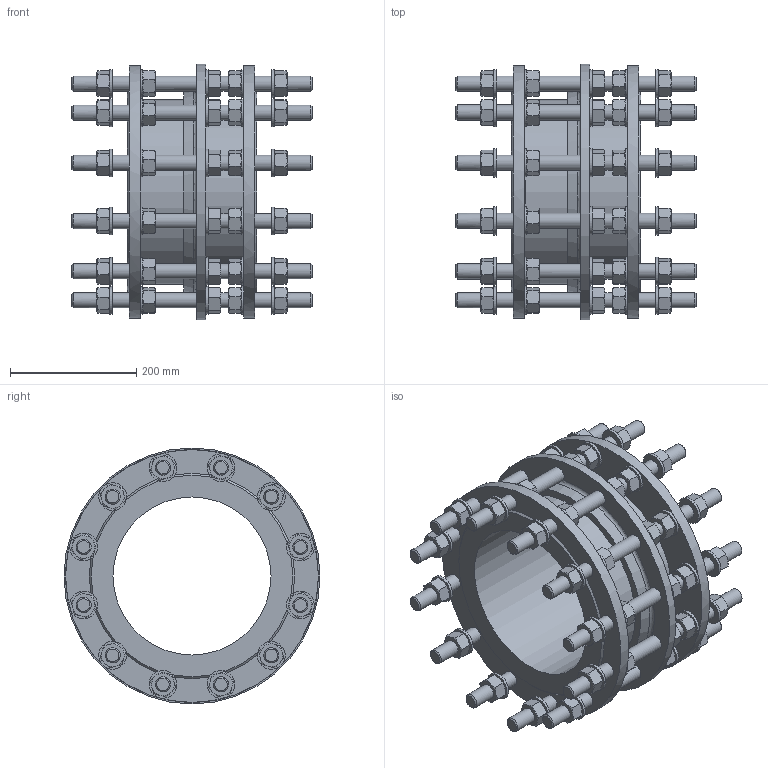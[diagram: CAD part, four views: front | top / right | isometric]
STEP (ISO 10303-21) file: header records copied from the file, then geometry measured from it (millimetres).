
FILE_DESCRIPTION (( 'STEP AP203' ), '1' );
FILE_NAME ('O_265_910_DN250_1XXXXX00_L=205_REV01.step', '2024-10-11T08:50:42', ( '' ), ( '' ), 'SwSTEP 2.0', 'SolidWorks 2022', '' );
FILE_SCHEMA (( 'CONFIG_CONTROL_DESIGN' ));
Length unit declared in the file: millimetre
Products named in the file (1): O_265_910_DN250_1XXXXX00_L=205_REV01
Bounding box: 380 x 405 x 405 mm (x, y, z)
Volume: 9071608.6 mm3; surface area: 1179586.2 mm2
Topology: 1 solids, 1 shells, 1464 faces, 3237 edges, 1942 vertices
Faces by surface type: cone 747, plane 576, cylinder 140, torus 1
Full cylindrical faces by diameter (mm): 24 x72, 44 x60, 250 x1, 264 x1, 292 x1, 400 x2, 405 x1
Entity records: 45456 total; most frequent: CARTESIAN_POINT 16622, ORIENTED_EDGE 5922, DIRECTION 5481, EDGE_CURVE 2961, AXIS2_PLACEMENT_3D 2507, EDGE_LOOP 1847, VERTEX_POINT 1832, FACE_OUTER_BOUND 1603
